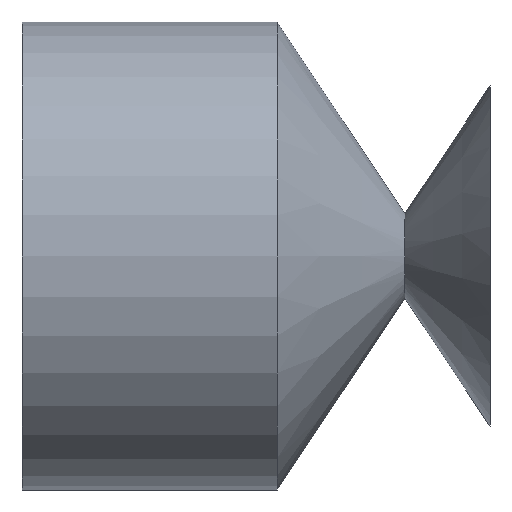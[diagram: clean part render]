
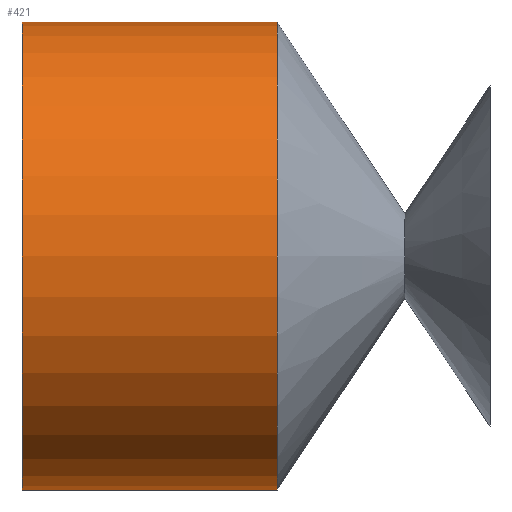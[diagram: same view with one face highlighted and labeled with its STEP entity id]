
A CAD part, left-side view. The second image highlights one B-rep face of the part: STEP entity #421.
In plain terms, the highlighted cylindrical face has radius 5.5 mm (diameter 11 mm), a partial arc.
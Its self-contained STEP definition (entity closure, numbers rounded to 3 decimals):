
#12 = EDGE_CURVE ( 'NONE', #23, #373, #188, .T. ) ;
#23 = VERTEX_POINT ( 'NONE', #390 ) ;
#30 = EDGE_CURVE ( 'NONE', #73, #384, #331, .T. ) ;
#48 = DIRECTION ( 'NONE',  ( 0., -1., 0. ) ) ;
#63 = CIRCLE ( 'NONE', #481, 5.5 ) ;
#73 = VERTEX_POINT ( 'NONE', #85 ) ;
#85 = CARTESIAN_POINT ( 'NONE',  ( 0., 11., -5.5 ) ) ;
#87 = CARTESIAN_POINT ( 'NONE',  ( 0., 5.005, 0. ) ) ;
#100 = DIRECTION ( 'NONE',  ( 0., -1., 0. ) ) ;
#104 = AXIS2_PLACEMENT_3D ( 'NONE', #87, #235, #502 ) ;
#121 = FACE_OUTER_BOUND ( 'NONE', #486, .T. ) ;
#155 = ORIENTED_EDGE ( 'NONE', *, *, #30, .T. ) ;
#156 = ORIENTED_EDGE ( 'NONE', *, *, #366, .F. ) ;
#188 = LINE ( 'NONE', #270, #388 ) ;
#221 = CARTESIAN_POINT ( 'NONE',  ( 0., 5.005, -5.5 ) ) ;
#235 = DIRECTION ( 'NONE',  ( 0., -1., 0. ) ) ;
#268 = DIRECTION ( 'NONE',  ( 0., -1., 0. ) ) ;
#270 = CARTESIAN_POINT ( 'NONE',  ( 0., 0., 5.5 ) ) ;
#271 = CARTESIAN_POINT ( 'NONE',  ( 0., 0., 0. ) ) ;
#281 = AXIS2_PLACEMENT_3D ( 'NONE', #271, #48, #335 ) ;
#306 = ORIENTED_EDGE ( 'NONE', *, *, #12, .F. ) ;
#317 = CIRCLE ( 'NONE', #104, 5.5 ) ;
#331 = LINE ( 'NONE', #358, #497 ) ;
#335 = DIRECTION ( 'NONE',  ( 0., 0., -1. ) ) ;
#349 = ORIENTED_EDGE ( 'NONE', *, *, #496, .T. ) ;
#358 = CARTESIAN_POINT ( 'NONE',  ( 0., 0., -5.5 ) ) ;
#366 = EDGE_CURVE ( 'NONE', #373, #384, #317, .T. ) ;
#373 = VERTEX_POINT ( 'NONE', #450 ) ;
#384 = VERTEX_POINT ( 'NONE', #221 ) ;
#388 = VECTOR ( 'NONE', #522, 1000. ) ;
#390 = CARTESIAN_POINT ( 'NONE',  ( 0., 11., 5.5 ) ) ;
#421 = ADVANCED_FACE ( 'NONE', ( #121 ), #444, .T. ) ;
#444 = CYLINDRICAL_SURFACE ( 'NONE', #281, 5.5 ) ;
#450 = CARTESIAN_POINT ( 'NONE',  ( 0., 5.005, 5.5 ) ) ;
#464 = CARTESIAN_POINT ( 'NONE',  ( 0., 11., 0. ) ) ;
#467 = DIRECTION ( 'NONE',  ( 0., 0., -1. ) ) ;
#481 = AXIS2_PLACEMENT_3D ( 'NONE', #464, #100, #467 ) ;
#486 = EDGE_LOOP ( 'NONE', ( #306, #349, #155, #156 ) ) ;
#496 = EDGE_CURVE ( 'NONE', #23, #73, #63, .T. ) ;
#497 = VECTOR ( 'NONE', #268, 1000. ) ;
#502 = DIRECTION ( 'NONE',  ( 0., 0., -1. ) ) ;
#522 = DIRECTION ( 'NONE',  ( 0., -1., 0. ) ) ;
